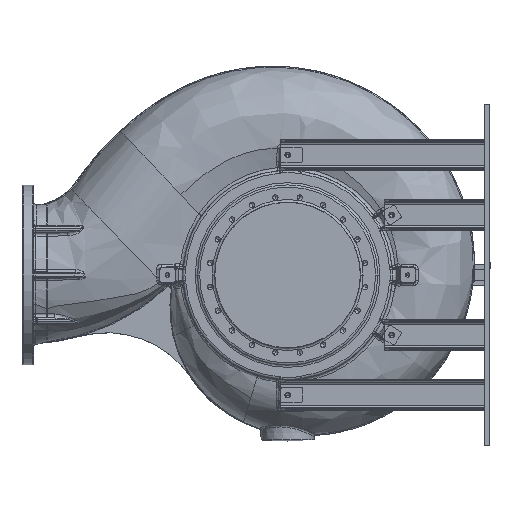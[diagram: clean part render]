
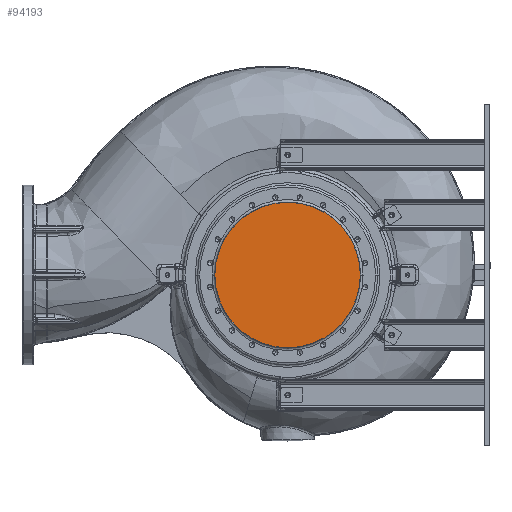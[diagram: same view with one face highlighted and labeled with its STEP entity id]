
A CAD part, left-side view. The second image highlights one B-rep face of the part: STEP entity #94193.
In plain terms, the highlighted planar face has unit normal (-1, 0, 0).
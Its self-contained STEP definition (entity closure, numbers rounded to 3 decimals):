
#780 = AXIS2_PLACEMENT_3D ( 'NONE', #107526, #34103, #119836 ) ;
#9203 = VERTEX_POINT ( 'NONE', #79990 ) ;
#25070 = EDGE_CURVE ( 'NONE', #155301, #9203, #126400, .T. ) ;
#26211 = EDGE_LOOP ( 'NONE', ( #70760, #39669 ) ) ;
#33189 = DIRECTION ( 'NONE',  ( 1., 0., 0. ) ) ;
#34103 = DIRECTION ( 'NONE',  ( 1., 0., 0. ) ) ;
#39669 = ORIENTED_EDGE ( 'NONE', *, *, #145791, .F. ) ;
#62489 = CARTESIAN_POINT ( 'NONE',  ( -654., 0., 250. ) ) ;
#69972 = CARTESIAN_POINT ( 'NONE',  ( -654., -287.5, 0. ) ) ;
#70760 = ORIENTED_EDGE ( 'NONE', *, *, #25070, .F. ) ;
#74858 = DIRECTION ( 'NONE',  ( 0., -1., 0. ) ) ;
#79990 = CARTESIAN_POINT ( 'NONE',  ( -654., 287.5, 0. ) ) ;
#93310 = PLANE ( 'NONE',  #154872 ) ;
#94193 = ADVANCED_FACE ( 'NONE', ( #150454 ), #93310, .F. ) ;
#106603 = CARTESIAN_POINT ( 'NONE',  ( -654., 0., 0. ) ) ;
#107526 = CARTESIAN_POINT ( 'NONE',  ( -654., 0., 0. ) ) ;
#118918 = DIRECTION ( 'NONE',  ( 0., -1., 0. ) ) ;
#119836 = DIRECTION ( 'NONE',  ( 0., -1., 0. ) ) ;
#124795 = AXIS2_PLACEMENT_3D ( 'NONE', #106603, #33189, #118918 ) ;
#126400 = CIRCLE ( 'NONE', #780, 287.5 ) ;
#145092 = CIRCLE ( 'NONE', #124795, 287.5 ) ;
#145791 = EDGE_CURVE ( 'NONE', #9203, #155301, #145092, .T. ) ;
#148304 = DIRECTION ( 'NONE',  ( 1., 0., 0. ) ) ;
#150454 = FACE_OUTER_BOUND ( 'NONE', #26211, .T. ) ;
#154872 = AXIS2_PLACEMENT_3D ( 'NONE', #62489, #148304, #74858 ) ;
#155301 = VERTEX_POINT ( 'NONE', #69972 ) ;
